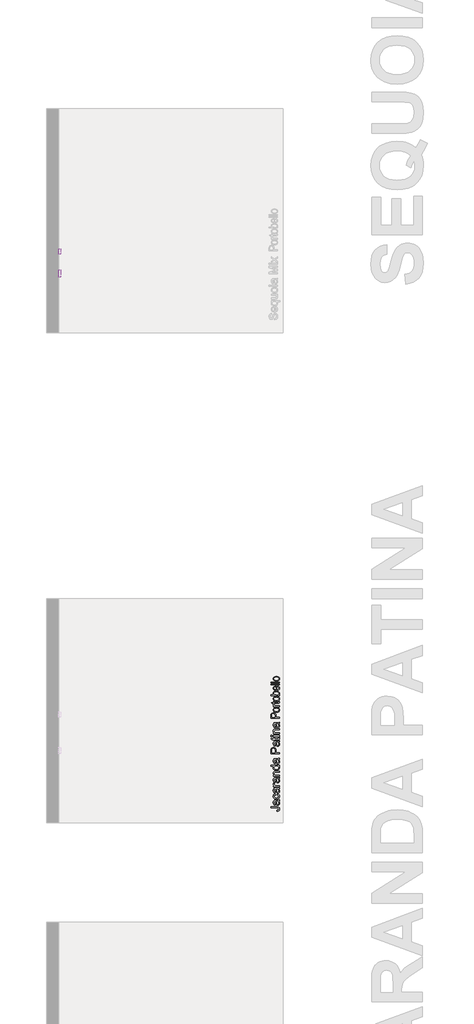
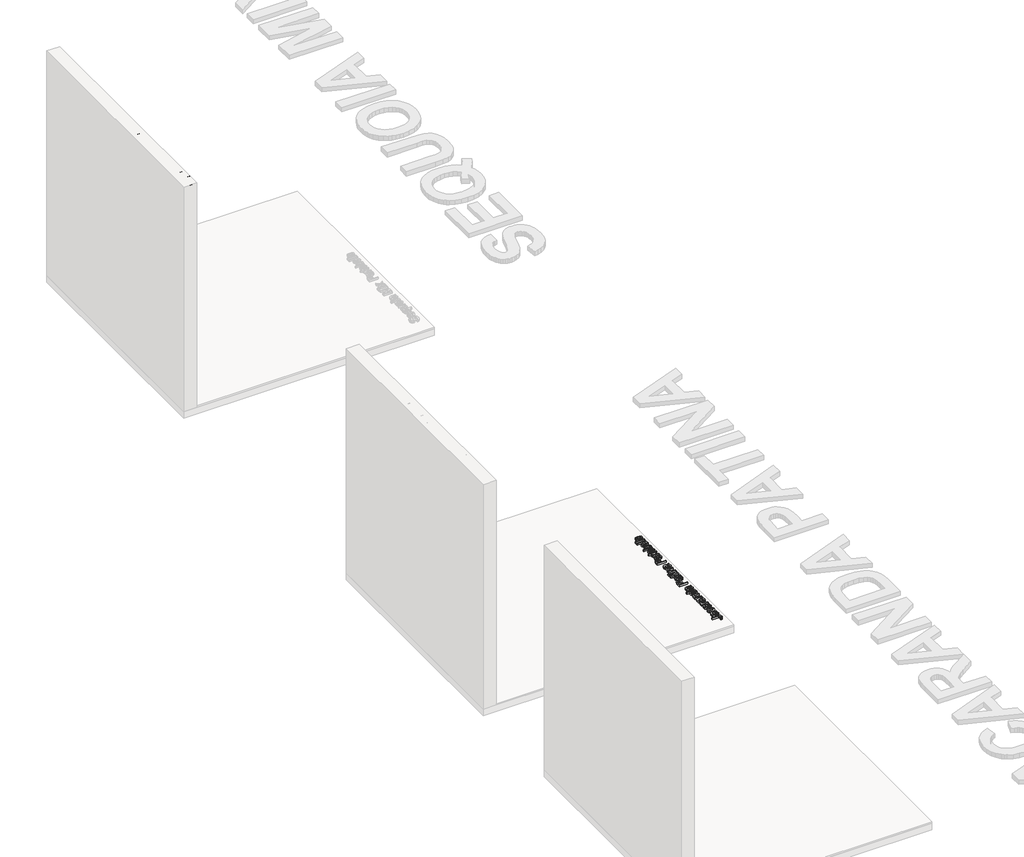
# One storey, part 8 of 10: 4 proxies.
"""IFC4 building model written with IfcOpenShell, lengths in millimetres."""

from ifc_helpers import new_model, si_unit, frame, origin, place, context, project, spatial, polyline, outline, extrude, element, save

model = new_model("IFC4")

# Units and contexts
model_context = context("Model", 3, world=origin())
ifc_project = project(units=[si_unit("LENGTHUNIT", "METRE", prefix="MILLI")], contexts=[model_context])

# Site, building, storey
site = spatial("IfcSite", under=ifc_project)
building = spatial("IfcBuilding", under=site)
storey = spatial("IfcBuildingStorey", under=building, Name="PORTOBELLO - SHOWROOM", Elevation=0.0)

# Proxies
placement = place(None, origin())
element("IfcBuildingElementProxy", 1, Name="10mm Arial", ObjectType="10mm Arial", at=placement, inside=storey, context=model_context, shape_type="SweptSolid", body=[
    extrude(outline(polyline([(10490.6401554, 2603.1041032), (10503.1971942, 2603.1041032), (10507.2438962, 2590.5348017), (10517.1276591, 2582.5885506), (10532.1862954, 2579.5596555), (10545.3074199, 2581.8527866), (10553.7809686, 2588.1558315), (10556.564609, 2596.5803292), (10554.4799443, 2604.4162157), (10545.9450821, 2610.1183866), (10527.6613469, 2614.9131153), (10507.9796602, 2621.1057955), (10497.2988196, 2630.4499982), (10493.7794151, 2642.9334606), (10498.1326854, 2657.1459683), (10510.8491397, 2667.1768841), (10529.4639687, 2670.5981866), (10549.3295964, 2667.0174685), (10562.5733482, 2656.4960435), (10567.5520179, 2640.7752195), (10554.9949791, 2640.7752195), (10552.6895853, 2648.2677495), (10547.8825939, 2653.6756148), (10529.954478, 2658.0411478), (10511.9773112, 2653.7246658), (10506.3364539, 2643.3013426), (10510.3341049, 2634.594802), (10530.8373948, 2627.5805186), (10553.0574673, 2621.2774738), (10565.2098359, 2611.0994053), (10569.1216478, 2596.8991602), (10564.6212247, 2581.8773121), (10551.6717784, 2570.9144287), (10532.6768048, 2567.0026168), (10510.2482658, 2571.220997), (10496.0602835, 2583.9251885), (10490.6401554, 2603.1041032)])), frame((151543.1527225, 0.0, 0.0), z_axis=(1.0, 0.0, 0.0), x_axis=(0.0, 1.0, 0.0)), (0.0, 0.0, 1.0), 20.0),
    extrude(outline(polyline([(10638.0382082, 2590.5470645), (10650.3499923, 2588.9774346), (10645.9139486, 2579.700677), (10638.8352858, 2572.7661014), (10629.2734196, 2568.4434879), (10617.3877655, 2567.0026168), (10602.6540916, 2569.4888859), (10591.3171948, 2576.9476934), (10584.0883136, 2588.8946612), (10581.6786865, 2604.8454113), (10584.1128391, 2621.3326561), (10591.4152967, 2633.6628343), (10602.5989093, 2641.351568), (10616.676527, 2643.9144792), (10630.315752, 2641.3576994), (10641.2142561, 2633.6873598), (10648.3603638, 2621.381707), (10650.7423998, 2604.9189877), (10650.6688234, 2601.5344734), (10594.2357253, 2601.5344734), (10596.4092947, 2592.1350884), (10601.4584751, 2585.2250383), (10608.7456043, 2580.9760012), (10617.6330202, 2579.5596555), (10629.9448043, 2582.1838804), (10638.0382082, 2590.5470645)]), holes=[polyline([(10594.2357253, 2614.0915122), (10638.185361, 2614.0915122), (10633.1576404, 2625.4713285), (10625.8367887, 2629.8859125), (10616.6274761, 2631.3574405), (10601.1641695, 2626.6608137), (10596.2989301, 2621.1701749), (10594.2357253, 2614.0915122)])]), frame((151543.1527225, 0.0, 0.0), z_axis=(1.0, 0.0, 0.0), x_axis=(0.0, 1.0, 0.0)), (0.0, 0.0, 1.0), 20.0),
    extrude(outline(polyline([(10708.8187041, 2540.3189094), (10708.8187041, 2578.6276878), (10700.8479275, 2570.3135547), (10689.9586204, 2567.0026168), (10678.0208497, 2569.6176446), (10667.8611753, 2577.4627282), (10660.9082056, 2589.8634171), (10658.590549, 2606.1452611), (10662.2693689, 2626.0354143), (10672.9379468, 2639.377268), (10688.2663633, 2643.9144792), (10699.9404852, 2640.3950748), (10708.8187041, 2629.8368615), (10708.8187041, 2642.3448494), (10721.3757428, 2642.3448494), (10721.3757428, 2540.3189094), (10708.8187041, 2540.3189094)]), holes=[polyline([(10671.1475877, 2605.458548), (10672.5608677, 2594.1277825), (10676.8007077, 2586.0343787), (10683.0148478, 2581.1783363), (10690.3510279, 2579.5596555), (10697.3806397, 2581.0986286), (10703.3617878, 2585.7155476), (10707.454475, 2593.4778577), (10708.8187041, 2604.4530039), (10707.3808986, 2616.1853738), (10703.0674822, 2624.6006745), (10696.816554, 2629.668249), (10689.566213, 2631.3574405), (10682.4507621, 2629.7847449), (10676.5064021, 2625.0666583), (10672.4872913, 2617.0192397), (10671.1475877, 2605.458548)])]), frame((151543.1527225, 0.0, 0.0), z_axis=(1.0, 0.0, 0.0), x_axis=(0.0, 1.0, 0.0)), (0.0, 0.0, 1.0), 20.0),
    extrude(outline(polyline([(10787.3001964, 2568.5722466), (10787.3001964, 2581.2519127), (10777.4654844, 2570.5649408), (10764.6386655, 2567.0026168), (10752.8296534, 2569.5042143), (10744.6871986, 2575.7827337), (10740.947065, 2585.0288345), (10740.211301, 2596.7029565), (10740.211301, 2642.3448494), (10752.7683397, 2642.3448494), (10752.7683397, 2602.6135939), (10753.5286292, 2589.8113005), (10758.4950361, 2582.294245), (10767.8515015, 2579.5596555), (10778.3361384, 2582.3555587), (10785.2645827, 2589.970716), (10787.3001964, 2603.9624946), (10787.3001964, 2642.3448494), (10799.8572351, 2642.3448494), (10799.8572351, 2568.5722466), (10787.3001964, 2568.5722466)])), frame((151543.1527225, 0.0, 0.0), z_axis=(1.0, 0.0, 0.0), x_axis=(0.0, 1.0, 0.0)), (0.0, 0.0, 1.0), 20.0),
    extrude(outline(polyline([(10813.9839037, 2605.458548), (10816.7000991, 2623.2456425), (10824.8486853, 2635.7474989), (10834.9163893, 2641.8727342), (10846.970656, 2643.9144792), (10860.1622912, 2641.4282101), (10870.6990447, 2633.9694026), (10877.6060291, 2622.1266681), (10879.9083573, 2606.4886176), (10875.8371299, 2584.1459177), (10863.9790669, 2571.5030398), (10846.970656, 2567.0026168), (10833.6196052, 2569.4796889), (10823.0951145, 2576.9109052), (10816.2617064, 2589.0019601), (10813.9839037, 2605.458548)]), holes=[polyline([(10826.5409425, 2605.4830735), (10827.9940764, 2594.1185855), (10832.353478, 2586.0221159), (10838.9140403, 2581.1752706), (10846.970656, 2579.5596555), (10854.9904835, 2581.1844677), (10861.538783, 2586.0589041), (10865.8981846, 2594.2626726), (10867.3513185, 2605.8754809), (10865.8889876, 2616.9088751), (10861.5019948, 2624.8949801), (10854.9444982, 2629.7418254), (10846.970656, 2631.3574405), (10838.9140403, 2629.7479567), (10832.353478, 2624.9195055), (10827.9940764, 2616.8414301), (10826.5409425, 2605.4830735)])]), frame((151543.1527225, 0.0, 0.0), z_axis=(1.0, 0.0, 0.0), x_axis=(0.0, 1.0, 0.0)), (0.0, 0.0, 1.0), 20.0),
    extrude(outline(polyline([(151563.1527225, 10906.5920647), (151563.1527225, 10894.0350259), (151543.1527225, 10894.0350259), (151543.1527225, 10906.5920647), (151563.1527225, 10906.5920647)])), frame((0.0, 0.0, 2656.471518), z_axis=(0.0, 0.0, 1.0), x_axis=(1.0, 0.0, 0.0)), (0.0, 0.0, 1.0), 12.5570388),
    extrude(outline(polyline([(151563.1527225, 10906.5920647), (151563.1527225, 10894.0350259), (151543.1527225, 10894.0350259), (151543.1527225, 10906.5920647), (151563.1527225, 10906.5920647)])), frame((0.0, 0.0, 2568.5722466), z_axis=(0.0, 0.0, 1.0), x_axis=(1.0, 0.0, 0.0)), (0.0, 0.0, 1.0), 73.7726028),
    extrude(outline(polyline([(10972.5165182, 2577.9900257), (10960.3396242, 2569.4796889), (10946.8874059, 2567.0026168), (10936.393572, 2568.4925388), (10928.6527216, 2572.9623051), (10923.8794528, 2579.7497279), (10922.2883631, 2588.1926197), (10924.6918588, 2598.1254336), (10931.0071664, 2605.3359207), (10939.7995461, 2609.456199), (10950.6643277, 2611.3446599), (10972.4429418, 2615.661142), (10972.5165182, 2618.4570452), (10969.0584274, 2627.7276714), (10955.1770135, 2631.3574405), (10942.4728219, 2628.941682), (10936.4150317, 2620.3700315), (10923.857993, 2621.9396614), (10929.2903838, 2634.2023946), (10940.2287418, 2641.3883562), (10956.7956943, 2643.9144792), (10972.0137461, 2641.6826618), (10980.6099221, 2636.0785927), (10984.4604203, 2627.5559932), (10985.073557, 2616.5685843), (10985.073557, 2600.9458622), (10985.7112191, 2579.1304599), (10988.2128167, 2568.5722466), (10975.6557779, 2568.5722466), (10972.5165182, 2577.9900257)]), holes=[polyline([(10972.5165182, 2603.1041032), (10952.258483, 2599.253605), (10941.4550151, 2597.2179913), (10936.5621845, 2593.9070533), (10934.8454019, 2589.0755365), (10938.5855355, 2582.2819823), (10949.5606817, 2579.5596555), (10962.2648733, 2582.5640252), (10970.456379, 2589.8358259), (10972.4429418, 2599.5479106), (10972.5165182, 2603.1041032)])]), frame((151543.1527225, 0.0, 0.0), z_axis=(1.0, 0.0, 0.0), x_axis=(0.0, 1.0, 0.0)), (0.0, 0.0, 1.0), 20.0),
    extrude(outline(polyline([(11043.1498613, 2568.5722466), (11043.1498613, 2669.0285568), (11064.7567971, 2669.0285568), (11085.3091379, 2598.2235354), (11089.4539417, 2583.4346792), (11093.9421021, 2599.4498087), (11114.1510863, 2669.0285568), (11135.7580222, 2669.0285568), (11135.7580222, 2568.5722466), (11123.2009834, 2568.5722466), (11123.2009834, 2656.471518), (11097.9642786, 2568.5722466), (11080.9436049, 2568.5722466), (11055.7069, 2656.471518), (11055.7069, 2568.5722466), (11043.1498613, 2568.5722466)])), frame((151543.1527225, 0.0, 0.0), z_axis=(1.0, 0.0, 0.0), x_axis=(0.0, 1.0, 0.0)), (0.0, 0.0, 1.0), 20.0),
    extrude(outline(polyline([(151563.1527225, 11168.720249), (151563.1527225, 11156.1632102), (151543.1527225, 11156.1632102), (151543.1527225, 11168.720249), (151563.1527225, 11168.720249)])), frame((0.0, 0.0, 2656.471518), z_axis=(0.0, 0.0, 1.0), x_axis=(1.0, 0.0, 0.0)), (0.0, 0.0, 1.0), 12.5570388),
    extrude(outline(polyline([(151563.1527225, 11168.720249), (151563.1527225, 11156.1632102), (151543.1527225, 11156.1632102), (151543.1527225, 11168.720249), (151563.1527225, 11168.720249)])), frame((0.0, 0.0, 2568.5722466), z_axis=(0.0, 0.0, 1.0), x_axis=(1.0, 0.0, 0.0)), (0.0, 0.0, 1.0), 73.7726028),
    extrude(outline(polyline([(11179.7076579, 2568.5722466), (11206.5385181, 2605.6547517), (11181.2772877, 2642.3448494), (11196.384975, 2642.3448494), (11208.5741318, 2624.6865136), (11214.26404, 2616.3478551), (11219.1936587, 2623.1659347), (11233.0750726, 2642.3448494), (11248.1827599, 2642.3448494), (11221.6462053, 2605.6547517), (11247.2017413, 2568.5722466), (11232.094054, 2568.5722466), (11216.7165866, 2590.8658955), (11213.896158, 2594.9371229), (11194.8153452, 2568.5722466), (11179.7076579, 2568.5722466)])), frame((151543.1527225, 0.0, 0.0), z_axis=(1.0, 0.0, 0.0), x_axis=(0.0, 1.0, 0.0)), (0.0, 0.0, 1.0), 20.0),
])
element("IfcBuildingElementProxy", 2, Name="10mm Arial", ObjectType="10mm Arial", at=placement, inside=storey, context=model_context, shape_type="SweptSolid", body=[
    extrude(outline(polyline([(154173.6817014, 4610.3471122), (154172.0630207, 4622.904151), (154186.9009278, 4627.1961076), (154190.8985788, 4637.791109), (154188.6299732, 4646.387285), (154182.4495557, 4651.3659546), (154170.0028815, 4652.727118), (154101.4296776, 4652.727118), (154101.4296776, 4665.2841568), (154169.7821523, 4665.2841568), (154189.2921608, 4662.2552617), (154199.8258486, 4652.6412789), (154203.4556176, 4637.2024978), (154201.5824851, 4625.5958209), (154195.9630876, 4617.06709), (154186.6464761, 4611.8922166), (154173.6817014, 4610.3471122)])), frame((0.0, 0.0, 17.0), z_axis=(0.0, 0.0, 1.0), x_axis=(1.0, 0.0, 0.0)), (0.0, 0.0, 1.0), 20.0),
    extrude(outline(polyline([(154192.4682087, 4732.7782402), (154200.9785455, 4720.6013461), (154203.4556176, 4707.1491279), (154201.9656955, 4696.6552939), (154197.4959293, 4688.9144436), (154190.7085064, 4684.1411747), (154182.2656147, 4682.5500851), (154172.3328008, 4684.9535808), (154165.1223137, 4691.2688884), (154161.0020353, 4700.0612681), (154159.1135744, 4710.9260497), (154154.7970923, 4732.7046638), (154152.0011892, 4732.7782402), (154142.7305629, 4729.3201494), (154139.1007939, 4715.4387355), (154141.5165523, 4702.7345439), (154150.0882028, 4696.6767537), (154148.518573, 4684.119715), (154136.2558398, 4689.5521057), (154129.0698782, 4700.4904637), (154126.5437551, 4717.0574163), (154128.7755726, 4732.2754681), (154134.3796416, 4740.8716441), (154142.9022412, 4744.7221423), (154153.8896501, 4745.335279), (154169.5123722, 4745.335279), (154191.3277745, 4745.9729411), (154201.8859877, 4748.4745386), (154201.8859877, 4735.9174999), (154192.4682087, 4732.7782402)]), holes=[polyline([(154167.3541311, 4732.7782402), (154171.2046293, 4712.520205), (154173.240243, 4701.7167371), (154176.551181, 4696.8239065), (154181.3826979, 4695.1071239), (154188.176252, 4698.8472575), (154190.8985788, 4709.8224037), (154187.8942092, 4722.5265953), (154180.6224084, 4730.718101), (154170.9103237, 4732.7046638), (154167.3541311, 4732.7782402)])]), frame((0.0, 0.0, 17.0), z_axis=(0.0, 0.0, 1.0), x_axis=(1.0, 0.0, 0.0)), (0.0, 0.0, 1.0), 20.0),
    extrude(outline(polyline([(154175.2022803, 4809.6901026), (154176.7719102, 4822.2471414), (154187.9401944, 4818.7461311), (154196.3800205, 4812.1671747), (154201.6867183, 4803.1295404), (154203.4556176, 4792.2524961), (154200.9877425, 4778.895314), (154193.5841174, 4768.450531), (154181.5697045, 4761.7090934), (154165.2694665, 4759.4619476), (154144.4105574, 4763.300183), (154131.00739, 4774.9988305), (154126.5437551, 4792.0808178), (154128.0765968, 4802.6911477), (154132.6751217, 4811.1738934), (154140.0940753, 4817.2592747), (154150.0882028, 4820.6775116), (154151.6578327, 4808.1204728), (154142.2523163, 4802.2956745), (154139.1007939, 4792.1789197), (154140.6520296, 4784.064056), (154145.3057369, 4777.6230554), (154153.3133016, 4773.4200036), (154164.9261099, 4772.0189863), (154176.6952681, 4773.3893468), (154184.730424, 4777.5004281), (154189.3565401, 4783.8249327), (154190.8985788, 4791.8355631), (154187.0480806, 4803.6691007), (154175.2022803, 4809.6901026)])), frame((0.0, 0.0, 17.0), z_axis=(0.0, 0.0, 1.0), x_axis=(1.0, 0.0, 0.0)), (0.0, 0.0, 1.0), 20.0),
    extrude(outline(polyline([(154192.4682087, 4880.3234457), (154200.9785455, 4868.1465517), (154203.4556176, 4854.6943334), (154201.9656955, 4844.2004995), (154197.4959293, 4836.4596492), (154190.7085064, 4831.6863803), (154182.2656147, 4830.0952906), (154172.3328008, 4832.4987863), (154165.1223137, 4838.8140939), (154161.0020353, 4847.6064736), (154159.1135744, 4858.4712552), (154154.7970923, 4880.2498693), (154152.0011892, 4880.3234457), (154142.7305629, 4876.865355), (154139.1007939, 4862.983941), (154141.5165523, 4850.2797494), (154150.0882028, 4844.2219593), (154148.518573, 4831.6649205), (154136.2558398, 4837.0973113), (154129.0698782, 4848.0356693), (154126.5437551, 4864.6026218), (154128.7755726, 4879.8206737), (154134.3796416, 4888.4168496), (154142.9022412, 4892.2673478), (154153.8896501, 4892.8804845), (154169.5123722, 4892.8804845), (154191.3277745, 4893.5181466), (154201.8859877, 4896.0197442), (154201.8859877, 4883.4627054), (154192.4682087, 4880.3234457)]), holes=[polyline([(154167.3541311, 4880.3234457), (154171.2046293, 4860.0654105), (154173.240243, 4849.2619426), (154176.551181, 4844.3691121), (154181.3826979, 4842.6523294), (154188.176252, 4846.392463), (154190.8985788, 4857.3676092), (154187.8942092, 4870.0718008), (154180.6224084, 4878.2633065), (154170.9103237, 4880.2498693), (154167.3541311, 4880.3234457)])]), frame((0.0, 0.0, 17.0), z_axis=(0.0, 0.0, 1.0), x_axis=(1.0, 0.0, 0.0)), (0.0, 0.0, 1.0), 20.0),
    extrude(outline(polyline([(154201.8859877, 4910.1464128), (154128.113385, 4910.1464128), (154128.113385, 4921.1338217), (154139.0272175, 4921.1338217), (154128.9717763, 4928.93292), (154126.5437551, 4936.7810692), (154130.4187788, 4949.3871589), (154141.6759679, 4945.1933042), (154139.1007939, 4936.3641363), (154141.577866, 4929.2640138), (154148.4449966, 4924.7390653), (154163.1112254, 4922.7034516), (154201.8859877, 4922.7034516), (154201.8859877, 4910.1464128)])), frame((0.0, 0.0, 17.0), z_axis=(0.0, 0.0, 1.0), x_axis=(1.0, 0.0, 0.0)), (0.0, 0.0, 1.0), 20.0),
    extrude(outline(polyline([(154192.4682087, 5004.3242036), (154200.9785455, 4992.1473095), (154203.4556176, 4978.6950912), (154201.9656955, 4968.2012573), (154197.4959293, 4960.460407), (154190.7085064, 4955.6871381), (154182.2656147, 4954.0960485), (154172.3328008, 4956.4995442), (154165.1223137, 4962.8148518), (154161.0020353, 4971.6072315), (154159.1135744, 4982.472013), (154154.7970923, 5004.2506272), (154152.0011892, 5004.3242036), (154142.7305629, 5000.8661128), (154139.1007939, 4986.9846988), (154141.5165523, 4974.2805073), (154150.0882028, 4968.2227171), (154148.518573, 4955.6656783), (154136.2558398, 4961.0980691), (154129.0698782, 4972.0364271), (154126.5437551, 4988.6033796), (154128.7755726, 5003.8214315), (154134.3796416, 5012.4176074), (154142.9022412, 5016.2681057), (154153.8896501, 5016.8812423), (154169.5123722, 5016.8812423), (154191.3277745, 5017.5189044), (154201.8859877, 5020.020502), (154201.8859877, 5007.4634632), (154192.4682087, 5004.3242036)]), holes=[polyline([(154167.3541311, 5004.3242036), (154171.2046293, 4984.0661684), (154173.240243, 4973.2627004), (154176.551181, 4968.3698699), (154181.3826979, 4966.6530872), (154188.176252, 4970.3932209), (154190.8985788, 4981.3683671), (154187.8942092, 4994.0725586), (154180.6224084, 5002.2640644), (154170.9103237, 5004.2506272), (154167.3541311, 5004.3242036)])]), frame((0.0, 0.0, 17.0), z_axis=(0.0, 0.0, 1.0), x_axis=(1.0, 0.0, 0.0)), (0.0, 0.0, 1.0), 20.0),
    extrude(outline(polyline([(154201.8859877, 5034.1471706), (154128.113385, 5034.1471706), (154128.113385, 5046.7042094), (154138.4140808, 5046.7042094), (154129.5113365, 5056.3059295), (154126.5437551, 5069.4147912), (154128.9349881, 5081.2728542), (154135.2135075, 5089.3662581), (154144.4473456, 5093.1309172), (154156.5874514, 5093.7931048), (154201.8859877, 5093.7931048), (154201.8859877, 5081.236066), (154158.2797086, 5081.236066), (154147.1696723, 5079.7890635), (154141.2958231, 5074.6755038), (154139.1007939, 5066.0548023), (154144.0304126, 5052.4309058), (154151.1734547, 5048.1358835), (154162.7433434, 5046.7042094), (154201.8859877, 5046.7042094), (154201.8859877, 5034.1471706)])), frame((0.0, 0.0, 17.0), z_axis=(0.0, 0.0, 1.0), x_axis=(1.0, 0.0, 0.0)), (0.0, 0.0, 1.0), 20.0),
    extrude(outline(polyline([(154201.8859877, 5156.5782986), (154190.0401875, 5156.5782986), (154200.1017601, 5148.2702969), (154203.4556176, 5136.7862473), (154198.5995752, 5121.2371016), (154185.0492551, 5110.2496927), (154165.0732627, 5106.3501436), (154145.0850077, 5109.9431244), (154131.3262211, 5120.7098041), (154126.5437551, 5136.7371964), (154129.9650577, 5148.3132165), (154138.8555392, 5156.5782986), (154101.4296776, 5156.5782986), (154101.4296776, 5169.1353374), (154201.8859877, 5169.1353374), (154201.8859877, 5156.5782986)]), holes=[polyline([(154165.0242118, 5118.9071823), (154176.3825684, 5120.323528), (154184.4606439, 5124.572565), (154189.2890951, 5130.7468512), (154190.8985788, 5137.9389442), (154189.3626715, 5145.1279715), (154184.7549495, 5151.1459078), (154176.9895737, 5155.2202009), (154165.980705, 5156.5782986), (154153.9448324, 5155.1956755), (154145.6000425, 5151.047806), (154140.725606, 5144.8765855), (154139.1007939, 5137.4239094), (154140.6612267, 5130.15824), (154145.3425251, 5124.2046831), (154153.3838124, 5120.2315575), (154165.0242118, 5118.9071823)])]), frame((0.0, 0.0, 17.0), z_axis=(0.0, 0.0, 1.0), x_axis=(1.0, 0.0, 0.0)), (0.0, 0.0, 1.0), 20.0),
    extrude(outline(polyline([(154192.4682087, 5235.0597909), (154200.9785455, 5222.8828969), (154203.4556176, 5209.4306786), (154201.9656955, 5198.9368447), (154197.4959293, 5191.1959944), (154190.7085064, 5186.4227255), (154182.2656147, 5184.8316359), (154172.3328008, 5187.2351316), (154165.1223137, 5193.5504391), (154161.0020353, 5202.3428188), (154159.1135744, 5213.2076004), (154154.7970923, 5234.9862145), (154152.0011892, 5235.0597909), (154142.7305629, 5231.6017002), (154139.1007939, 5217.7202862), (154141.5165523, 5205.0160947), (154150.0882028, 5198.9583045), (154148.518573, 5186.4012657), (154136.2558398, 5191.8336565), (154129.0698782, 5202.7720145), (154126.5437551, 5219.338967), (154128.7755726, 5234.5570189), (154134.3796416, 5243.1531948), (154142.9022412, 5247.003693), (154153.8896501, 5247.6168297), (154169.5123722, 5247.6168297), (154191.3277745, 5248.2544918), (154201.8859877, 5250.7560894), (154201.8859877, 5238.1990506), (154192.4682087, 5235.0597909)]), holes=[polyline([(154167.3541311, 5235.0597909), (154171.2046293, 5214.8017557), (154173.240243, 5203.9982878), (154176.551181, 5199.1054573), (154181.3826979, 5197.3886746), (154188.176252, 5201.1288082), (154190.8985788, 5212.1039544), (154187.8942092, 5224.808146), (154180.6224084, 5232.9996518), (154170.9103237, 5234.9862145), (154167.3541311, 5235.0597909)])]), frame((0.0, 0.0, 17.0), z_axis=(0.0, 0.0, 1.0), x_axis=(1.0, 0.0, 0.0)), (0.0, 0.0, 1.0), 20.0),
    extrude(outline(polyline([(154201.8859877, 5305.693134), (154101.4296776, 5305.693134), (154101.4296776, 5342.9227919), (154102.3861708, 5357.9323773), (154107.0827976, 5370.1337968), (154116.7948822, 5378.0432597), (154130.4923552, 5381.0353666), (154142.3320241, 5379.0150813), (154152.1973929, 5372.9542255), (154158.856057, 5361.6203943), (154161.0756117, 5343.7811832), (154161.0756117, 5318.2501728), (154201.8859877, 5318.2501728), (154201.8859877, 5305.693134)]), holes=[polyline([(154148.518573, 5318.2501728), (154148.518573, 5344.5169472), (154143.9077853, 5363.0091489), (154138.3588985, 5367.1110331), (154130.9338136, 5368.4783278), (154120.5350159, 5365.253229), (154114.8451077, 5356.7796804), (154113.9867164, 5344.2226416), (154113.9867164, 5318.2501728), (154148.518573, 5318.2501728)])]), frame((0.0, 0.0, 17.0), z_axis=(0.0, 0.0, 1.0), x_axis=(1.0, 0.0, 0.0)), (0.0, 0.0, 1.0), 20.0),
    extrude(outline(polyline([(154192.4682087, 5443.8205605), (154200.9785455, 5431.6436664), (154203.4556176, 5418.1914481), (154201.9656955, 5407.6976142), (154197.4959293, 5399.9567639), (154190.7085064, 5395.183495), (154182.2656147, 5393.5924054), (154172.3328008, 5395.9959011), (154165.1223137, 5402.3112087), (154161.0020353, 5411.1035884), (154159.1135744, 5421.9683699), (154154.7970923, 5443.7469841), (154152.0011892, 5443.8205605), (154142.7305629, 5440.3624697), (154139.1007939, 5426.4810558), (154141.5165523, 5413.7768642), (154150.0882028, 5407.719074), (154148.518573, 5395.1620352), (154136.2558398, 5400.594426), (154129.0698782, 5411.532784), (154126.5437551, 5428.0997365), (154128.7755726, 5443.3177884), (154134.3796416, 5451.9139644), (154142.9022412, 5455.7644626), (154153.8896501, 5456.3775992), (154169.5123722, 5456.3775992), (154191.3277745, 5457.0152614), (154201.8859877, 5459.5168589), (154201.8859877, 5446.9598202), (154192.4682087, 5443.8205605)]), holes=[polyline([(154167.3541311, 5443.8205605), (154171.2046293, 5423.5625253), (154173.240243, 5412.7590573), (154176.551181, 5407.8662268), (154181.3826979, 5406.1494442), (154188.176252, 5409.8895778), (154190.8985788, 5420.864724), (154187.8942092, 5433.5689155), (154180.6224084, 5441.7604213), (154170.9103237, 5443.7469841), (154167.3541311, 5443.8205605)])]), frame((0.0, 0.0, 17.0), z_axis=(0.0, 0.0, 1.0), x_axis=(1.0, 0.0, 0.0)), (0.0, 0.0, 1.0), 20.0),
    extrude(outline(polyline([(154191.4136136, 5500.3272349), (154202.2538697, 5501.8968648), (154203.4556176, 5492.5036112), (154201.3709529, 5481.9821861), (154195.9017739, 5476.7337363), (154181.652478, 5475.2131574), (154140.6704237, 5475.2131574), (154140.6704237, 5465.7953783), (154128.113385, 5465.7953783), (154128.113385, 5475.2131574), (154110.1852691, 5475.2131574), (154102.8031037, 5487.7701962), (154128.113385, 5487.7701962), (154128.113385, 5500.3272349), (154140.6704237, 5500.3272349), (154140.6704237, 5487.7701962), (154181.284596, 5487.7701962), (154187.7593191, 5488.4323837), (154190.0524502, 5490.578362), (154190.8985788, 5494.8580559), (154191.4136136, 5500.3272349)])), frame((0.0, 0.0, 17.0), z_axis=(0.0, 0.0, 1.0), x_axis=(1.0, 0.0, 0.0)), (0.0, 0.0, 1.0), 20.0),
    extrude(outline(polyline([(154113.9867164, 5512.8842737), (154101.4296776, 5512.8842737), (154101.4296776, 5525.4413125), (154113.9867164, 5525.4413125), (154113.9867164, 5512.8842737)])), frame((0.0, 0.0, 17.0), z_axis=(0.0, 0.0, 1.0), x_axis=(1.0, 0.0, 0.0)), (0.0, 0.0, 1.0), 20.0),
    extrude(outline(polyline([(154201.8859877, 5512.8842737), (154128.113385, 5512.8842737), (154128.113385, 5525.4413125), (154201.8859877, 5525.4413125), (154201.8859877, 5512.8842737)])), frame((0.0, 0.0, 17.0), z_axis=(0.0, 0.0, 1.0), x_axis=(1.0, 0.0, 0.0)), (0.0, 0.0, 1.0), 20.0),
    extrude(outline(polyline([(154201.8859877, 5544.2768706), (154128.113385, 5544.2768706), (154128.113385, 5556.8339094), (154138.4140808, 5556.8339094), (154129.5113365, 5566.4356295), (154126.5437551, 5579.5444912), (154128.9349881, 5591.4025542), (154135.2135075, 5599.4959581), (154144.4473456, 5603.2606172), (154156.5874514, 5603.9228048), (154201.8859877, 5603.9228048), (154201.8859877, 5591.365766), (154158.2797086, 5591.365766), (154147.1696723, 5589.9187635), (154141.2958231, 5584.8052037), (154139.1007939, 5576.1845023), (154144.0304126, 5562.5606058), (154151.1734547, 5558.2655835), (154162.7433434, 5556.8339094), (154201.8859877, 5556.8339094), (154201.8859877, 5544.2768706)])), frame((0.0, 0.0, 17.0), z_axis=(0.0, 0.0, 1.0), x_axis=(1.0, 0.0, 0.0)), (0.0, 0.0, 1.0), 20.0),
    extrude(outline(polyline([(154192.4682087, 5668.2776285), (154200.9785455, 5656.1007344), (154203.4556176, 5642.6485161), (154201.9656955, 5632.1546822), (154197.4959293, 5624.4138319), (154190.7085064, 5619.640563), (154182.2656147, 5618.0494734), (154172.3328008, 5620.4529691), (154165.1223137, 5626.7682767), (154161.0020353, 5635.5606563), (154159.1135744, 5646.4254379), (154154.7970923, 5668.2040521), (154152.0011892, 5668.2776285), (154142.7305629, 5664.8195377), (154139.1007939, 5650.9381237), (154141.5165523, 5638.2339322), (154150.0882028, 5632.176142), (154148.518573, 5619.6191032), (154136.2558398, 5625.051494), (154129.0698782, 5635.989852), (154126.5437551, 5652.5568045), (154128.7755726, 5667.7748564), (154134.3796416, 5676.3710323), (154142.9022412, 5680.2215306), (154153.8896501, 5680.8346672), (154169.5123722, 5680.8346672), (154191.3277745, 5681.4723293), (154201.8859877, 5683.9739269), (154201.8859877, 5671.4168881), (154192.4682087, 5668.2776285)]), holes=[polyline([(154167.3541311, 5668.2776285), (154171.2046293, 5648.0195932), (154173.240243, 5637.2161253), (154176.551181, 5632.3232948), (154181.3826979, 5630.6065121), (154188.176252, 5634.3466458), (154190.8985788, 5645.321792), (154187.8942092, 5658.0259835), (154180.6224084, 5666.2174893), (154170.9103237, 5668.2040521), (154167.3541311, 5668.2776285)])]), frame((0.0, 0.0, 17.0), z_axis=(0.0, 0.0, 1.0), x_axis=(1.0, 0.0, 0.0)), (0.0, 0.0, 1.0), 20.0),
])
element("IfcBuildingElementProxy", 3, Name="10mm Arial Narrow", ObjectType="10mm Arial Narrow", at=placement, inside=storey, context=model_context, shape_type="SweptSolid", body=[
    extrude(outline(polyline([(11322.6629446, 2568.5722466), (11322.6629446, 2669.2908504), (11353.9598293, 2669.2908504), (11370.2555308, 2667.4125296), (11381.7285169, 2657.9320865), (11386.0181954, 2640.9129776), (11384.231887, 2628.8371521), (11378.8729618, 2619.2107583), (11369.1291729, 2612.9094999), (11354.1882737, 2610.8090804), (11332.4099063, 2610.8090804), (11332.4099063, 2568.5722466), (11322.6629446, 2568.5722466)]), holes=[polyline([(11332.4099063, 2622.1805357), (11355.3812612, 2622.1805357), (11371.2454566, 2626.7113499), (11376.2712337, 2640.3799407), (11373.7964192, 2650.5457171), (11367.8187904, 2656.3456669), (11355.1528168, 2657.9193951), (11332.4099063, 2657.9193951), (11332.4099063, 2622.1805357)])]), frame((151543.1527225, 0.0, 0.0), z_axis=(1.0, 0.0, 0.0), x_axis=(0.0, 1.0, 0.0)), (0.0, 0.0, 1.0), 20.0),
    extrude(outline(polyline([(11394.1406634, 2605.1233528), (11396.0951323, 2621.7141284), (11401.9585389, 2633.6662132), (11410.8171056, 2640.8907678), (11421.7570548, 2643.2989526), (11432.5700903, 2640.8907678), (11441.4540398, 2633.6662132), (11447.3935945, 2621.9044987), (11449.3734461, 2605.8848342), (11447.4284958, 2588.7229476), (11441.5936447, 2576.5804925), (11432.7445965, 2569.3559379), (11421.7570548, 2566.947753), (11410.8964266, 2569.3622835), (11402.0219957, 2576.6058752), (11396.1109965, 2588.5643057), (11394.1406634, 2605.1233528)]), holes=[polyline([(11403.8876251, 2605.1487355), (11405.1916619, 2592.5969841), (11409.1037725, 2583.7257261), (11414.9449693, 2578.4524675), (11422.0362646, 2576.6947147), (11428.7563378, 2578.4683317), (11434.4484111, 2583.7891828), (11438.3319661, 2592.6763051), (11439.6264845, 2605.1487355), (11438.3224476, 2617.6624129), (11434.410337, 2626.5209796), (11428.5691403, 2631.7942381), (11421.4778449, 2633.551991), (11414.7101792, 2631.7847196), (11409.0276244, 2626.4829055), (11405.1726249, 2617.6148203), (11403.8876251, 2605.1487355)])]), frame((151543.1527225, 0.0, 0.0), z_axis=(1.0, 0.0, 0.0), x_axis=(0.0, 1.0, 0.0)), (0.0, 0.0, 1.0), 20.0),
    extrude(outline(polyline([(11520.8511649, 2576.6947147), (11522.4756585, 2566.947753), (11515.1146718, 2566.947753), (11506.8399075, 2569.0672095), (11502.5248464, 2574.8671593), (11501.3572416, 2589.5129845), (11501.3572416, 2631.9274974), (11493.2347736, 2631.9274974), (11493.2347736, 2635.1764846), (11491.6102799, 2630.3030038), (11484.0462316, 2631.9274974), (11477.9670719, 2629.6049792), (11474.0962082, 2623.1196961), (11472.1163566, 2607.7123895), (11472.1163566, 2568.5722466), (11462.369395, 2568.5722466), (11462.369395, 2641.674459), (11472.1163566, 2641.674459), (11472.1163566, 2631.9782628), (11478.3605039, 2641.0652739), (11484.7569475, 2643.2989526), (11493.2347736, 2641.674459), (11501.3572416, 2641.674459), (11501.3572416, 2657.9193951), (11511.1042032, 2666.0418631), (11511.1042032, 2641.674459), (11520.8511649, 2641.674459), (11520.8511649, 2631.9274974), (11511.1042032, 2631.9274974), (11511.1042032, 2587.2793058), (11511.9672155, 2579.2837513), (11516.5868692, 2576.6947147), (11520.8511649, 2576.6947147)])), frame((151543.1527225, 0.0, 0.0), z_axis=(1.0, 0.0, 0.0), x_axis=(0.0, 1.0, 0.0)), (0.0, 0.0, 1.0), 20.0),
    extrude(outline(polyline([(11527.3491393, 2605.1233528), (11529.3036082, 2621.7141284), (11535.1670148, 2633.6662132), (11544.0255815, 2640.8907678), (11554.9655307, 2643.2989526), (11565.7785663, 2640.8907678), (11574.6625157, 2633.6662132), (11580.6020705, 2621.9044987), (11582.581922, 2605.8848342), (11580.6369717, 2588.7229476), (11574.8021206, 2576.5804925), (11565.9530724, 2569.3559379), (11554.9655307, 2566.947753), (11544.1049025, 2569.3622835), (11535.2304716, 2576.6058752), (11529.3194724, 2588.5643057), (11527.3491393, 2605.1233528)]), holes=[polyline([(11537.096101, 2605.1487355), (11538.4001379, 2592.5969841), (11542.3122484, 2583.7257261), (11548.1534452, 2578.4524675), (11555.2447405, 2576.6947147), (11561.9648137, 2578.4683317), (11567.656887, 2583.7891828), (11571.540442, 2592.6763051), (11572.8349604, 2605.1487355), (11571.5309235, 2617.6624129), (11567.6188129, 2626.5209796), (11561.7776162, 2631.7942381), (11554.6863209, 2633.551991), (11547.9186551, 2631.7847196), (11542.2361003, 2626.4829055), (11538.3811008, 2617.6148203), (11537.096101, 2605.1487355)])]), frame((151543.1527225, 0.0, 0.0), z_axis=(1.0, 0.0, 0.0), x_axis=(0.0, 1.0, 0.0)), (0.0, 0.0, 1.0), 20.0),
    extrude(outline(polyline([(11605.3248326, 2568.5722466), (11595.5778709, 2568.5722466), (11595.5778709, 2669.2908504), (11605.3248326, 2669.2908504), (11605.3248326, 2633.8819662), (11612.7238933, 2640.9637431), (11621.9251266, 2643.2989526), (11634.8068533, 2639.0981137), (11644.0842348, 2626.3686833), (11647.5616664, 2605.6817725), (11645.6294074, 2589.227429), (11639.8326304, 2577.0246899), (11631.4595081, 2569.4669872), (11621.7982131, 2566.947753), (11612.4573748, 2569.5621724), (11605.3248326, 2577.3292825), (11605.3248326, 2568.5722466)]), holes=[polyline([(11605.3248326, 2605.6817725), (11607.406215, 2588.4342193), (11613.2950043, 2579.7025661), (11621.7474476, 2576.6947147), (11627.6901752, 2578.4841959), (11632.9285326, 2583.8526396), (11637.8147047, 2605.2756491), (11633.1062116, 2626.7113499), (11627.8615086, 2631.8418307), (11621.5443859, 2633.551991), (11615.5667571, 2631.7625097), (11610.2744615, 2626.394066), (11605.3248326, 2605.6817725)])]), frame((151543.1527225, 0.0, 0.0), z_axis=(1.0, 0.0, 0.0), x_axis=(0.0, 1.0, 0.0)), (0.0, 0.0, 1.0), 20.0),
    extrude(outline(polyline([(11699.5454619, 2591.3151571), (11709.2924235, 2589.6906635), (11705.5928932, 2579.804097), (11699.7739063, 2572.6842461), (11692.070253, 2568.3818763), (11682.7167234, 2566.947753), (11671.1231694, 2569.3622835), (11661.9790472, 2576.6058752), (11656.0394924, 2588.4120094), (11654.0596408, 2604.5141677), (11656.0490109, 2621.1810914), (11662.0171212, 2633.3616206), (11671.0311571, 2640.8146196), (11682.1583037, 2643.2989526), (11692.8412529, 2640.9002863), (11701.5887703, 2633.7042872), (11707.4236213, 2621.9647827), (11709.3685717, 2605.9355996), (11709.2924235, 2602.6866124), (11663.8066025, 2602.6866124), (11669.809614, 2583.2434545), (11675.7396503, 2578.3318996), (11682.843637, 2576.6947147), (11693.0221047, 2580.3498253), (11699.5454619, 2591.3151571)]), holes=[polyline([(11664.466553, 2612.4335741), (11699.5454619, 2612.4335741), (11695.2811662, 2626.6986586), (11689.4558336, 2631.8386579), (11682.2344519, 2633.551991), (11670.0253671, 2627.8408806), (11664.466553, 2612.4335741)])]), frame((151543.1527225, 0.0, 0.0), z_axis=(1.0, 0.0, 0.0), x_axis=(0.0, 1.0, 0.0)), (0.0, 0.0, 1.0), 20.0),
    extrude(outline(polyline([(151563.1527225, 11732.0353341), (151563.1527225, 11722.2883724), (151543.1527225, 11722.2883724), (151543.1527225, 11732.0353341), (151563.1527225, 11732.0353341)])), frame((0.0, 0.0, 2568.5722466), z_axis=(0.0, 0.0, 1.0), x_axis=(1.0, 0.0, 0.0)), (0.0, 0.0, 1.0), 100.7186038),
    extrude(outline(polyline([(151563.1527225, 11758.0272318), (151563.1527225, 11748.2802702), (151543.1527225, 11748.2802702), (151543.1527225, 11758.0272318), (151563.1527225, 11758.0272318)])), frame((0.0, 0.0, 2568.5722466), z_axis=(0.0, 0.0, 1.0), x_axis=(1.0, 0.0, 0.0)), (0.0, 0.0, 1.0), 100.7186038),
    extrude(outline(polyline([(11769.3986871, 2605.1233528), (11771.3531559, 2621.7141284), (11777.2165626, 2633.6662132), (11786.0751293, 2640.8907678), (11797.0150784, 2643.2989526), (11807.828114, 2640.8907678), (11816.7120634, 2633.6662132), (11822.6516182, 2621.9044987), (11824.6314698, 2605.8848342), (11822.6865194, 2588.7229476), (11816.8516683, 2576.5804925), (11808.0026202, 2569.3559379), (11797.0150784, 2566.947753), (11786.1544502, 2569.3622835), (11777.2800193, 2576.6058752), (11771.3690201, 2588.5643057), (11769.3986871, 2605.1233528)]), holes=[polyline([(11779.1456487, 2605.1487355), (11780.4496856, 2592.5969841), (11784.3617962, 2583.7257261), (11790.2029929, 2578.4524675), (11797.2942883, 2576.6947147), (11804.0143614, 2578.4683317), (11809.7064347, 2583.7891828), (11813.5899898, 2592.6763051), (11814.8845081, 2605.1487355), (11813.5804713, 2617.6624129), (11809.6683607, 2626.5209796), (11803.8271639, 2631.7942381), (11796.7358686, 2633.551991), (11789.9682028, 2631.7847196), (11784.285648, 2626.4829055), (11780.4306485, 2617.6148203), (11779.1456487, 2605.1487355)])]), frame((151543.1527225, 0.0, 0.0), z_axis=(1.0, 0.0, 0.0), x_axis=(0.0, 1.0, 0.0)), (0.0, 0.0, 1.0), 20.0),
])
element("IfcBuildingElementProxy", 4, Name="10mm Arial Narrow", ObjectType="10mm Arial Narrow", at=placement, inside=storey, context=model_context, shape_type="SweptSolid", body=[
    extrude(outline(polyline([(154201.8859877, 5733.9395312), (154101.167384, 5733.9395312), (154101.167384, 5765.2364159), (154103.0457047, 5781.5321174), (154112.5261479, 5793.0051035), (154129.5452567, 5797.2947819), (154141.6210822, 5795.5084735), (154151.247476, 5790.1495483), (154157.5487344, 5780.4057595), (154159.6491539, 5765.4648603), (154159.6491539, 5743.6864929), (154201.8859877, 5743.6864929), (154201.8859877, 5733.9395312)]), holes=[polyline([(154148.2776986, 5743.6864929), (154148.2776986, 5766.6578478), (154143.7468844, 5782.5220432), (154130.0782937, 5787.5478203), (154119.9125173, 5785.0730058), (154114.1125674, 5779.095377), (154112.5388392, 5766.4294034), (154112.5388392, 5743.6864929), (154148.2776986, 5743.6864929)])]), frame((0.0, 0.0, 17.0), z_axis=(0.0, 0.0, 1.0), x_axis=(1.0, 0.0, 0.0)), (0.0, 0.0, 1.0), 20.0),
    extrude(outline(polyline([(154165.3348815, 5805.41725), (154148.744106, 5807.3717189), (154136.7920212, 5813.2351255), (154129.5674666, 5822.0936922), (154127.1592817, 5833.0336413), (154129.5674666, 5843.8466769), (154136.7920212, 5852.7306264), (154148.5537356, 5858.6701811), (154164.5734002, 5860.6500327), (154181.7352867, 5858.7050823), (154193.8777419, 5852.8702313), (154201.1022965, 5844.0211831), (154203.5104813, 5833.0336413), (154201.0959508, 5822.1730132), (154193.8523592, 5813.2985823), (154181.8939287, 5807.3875831), (154165.3348815, 5805.41725)]), holes=[polyline([(154165.3094988, 5815.1642116), (154177.8612502, 5816.4682485), (154186.7325083, 5820.3803591), (154192.0057668, 5826.2215558), (154193.7635197, 5833.3128512), (154191.9899026, 5840.0329244), (154186.6690515, 5845.7249977), (154177.7819292, 5849.6085527), (154165.3094988, 5850.903071), (154152.7958215, 5849.5990342), (154143.9372548, 5845.6869236), (154138.6639962, 5839.8457268), (154136.9062434, 5832.7544315), (154138.6735147, 5825.9867657), (154143.9753288, 5820.304211), (154152.8434141, 5816.4492115), (154165.3094988, 5815.1642116)])]), frame((0.0, 0.0, 17.0), z_axis=(0.0, 0.0, 1.0), x_axis=(1.0, 0.0, 0.0)), (0.0, 0.0, 1.0), 20.0),
    extrude(outline(polyline([(154193.7635197, 5932.1277515), (154203.5104813, 5933.7522451), (154203.5104813, 5926.3912584), (154201.3910248, 5918.1164941), (154195.591075, 5913.801433), (154180.9452498, 5912.6338282), (154138.530737, 5912.6338282), (154138.530737, 5904.5113601), (154135.2817498, 5904.5113601), (154140.1552306, 5902.8868665), (154138.530737, 5895.3228182), (154140.8532552, 5889.2436585), (154147.3385383, 5885.3727948), (154162.7458448, 5883.3929432), (154201.8859877, 5883.3929432), (154201.8859877, 5873.6459816), (154128.7837753, 5873.6459816), (154128.7837753, 5883.3929432), (154138.4799716, 5883.3929432), (154129.3929604, 5889.6370905), (154127.1592817, 5896.0335341), (154128.7837753, 5904.5113601), (154128.7837753, 5912.6338282), (154112.5388392, 5912.6338282), (154104.4163712, 5922.3807898), (154128.7837753, 5922.3807898), (154128.7837753, 5932.1277515), (154138.530737, 5932.1277515), (154138.530737, 5922.3807898), (154183.1789285, 5922.3807898), (154191.174483, 5923.2438021), (154193.7635197, 5927.8634558), (154193.7635197, 5932.1277515)])), frame((0.0, 0.0, 17.0), z_axis=(0.0, 0.0, 1.0), x_axis=(1.0, 0.0, 0.0)), (0.0, 0.0, 1.0), 20.0),
    extrude(outline(polyline([(154165.3348815, 5938.6257259), (154148.744106, 5940.5801948), (154136.7920212, 5946.4436014), (154129.5674666, 5955.3021681), (154127.1592817, 5966.2421173), (154129.5674666, 5977.0551529), (154136.7920212, 5985.9391023), (154148.5537356, 5991.878657), (154164.5734002, 5993.8585086), (154181.7352867, 5991.9135583), (154193.8777419, 5986.0787072), (154201.1022965, 5977.229659), (154203.5104813, 5966.2421173), (154201.0959508, 5955.3814891), (154193.8523592, 5946.5070582), (154181.8939287, 5940.596059), (154165.3348815, 5938.6257259)]), holes=[polyline([(154165.3094988, 5948.3726876), (154177.8612502, 5949.6767244), (154186.7325083, 5953.588835), (154192.0057668, 5959.4300318), (154193.7635197, 5966.5213271), (154191.9899026, 5973.2414003), (154186.6690515, 5978.9334736), (154177.7819292, 5982.8170286), (154165.3094988, 5984.111547), (154152.7958215, 5982.8075101), (154143.9372548, 5978.8953995), (154138.6639962, 5973.0542028), (154136.9062434, 5965.9629074), (154138.6735147, 5959.1952417), (154143.9753288, 5953.5126869), (154152.8434141, 5949.6576874), (154165.3094988, 5948.3726876)])]), frame((0.0, 0.0, 17.0), z_axis=(0.0, 0.0, 1.0), x_axis=(1.0, 0.0, 0.0)), (0.0, 0.0, 1.0), 20.0),
    extrude(outline(polyline([(154201.8859877, 6016.6014192), (154201.8859877, 6006.8544575), (154101.167384, 6006.8544575), (154101.167384, 6016.6014192), (154136.5762681, 6016.6014192), (154129.4944913, 6024.0004799), (154127.1592817, 6033.2017132), (154131.3601207, 6046.0834399), (154144.0895511, 6055.3608214), (154164.7764619, 6058.838253), (154181.2308053, 6056.905994), (154193.4335444, 6051.109217), (154200.9912471, 6042.7360947), (154203.5104813, 6033.0747997), (154200.8960619, 6023.7339614), (154193.1289519, 6016.6014192), (154201.8859877, 6016.6014192)]), holes=[polyline([(154164.7764619, 6016.6014192), (154182.0240151, 6018.6828016), (154190.7556682, 6024.5715909), (154193.7635197, 6033.0240342), (154191.9740384, 6038.9667618), (154186.6055947, 6044.2051191), (154165.1825853, 6049.0912913), (154143.7468844, 6044.3827981), (154138.6164036, 6039.1380951), (154136.9062434, 6032.8209725), (154138.6957246, 6026.8433437), (154144.0641683, 6021.5510481), (154164.7764619, 6016.6014192)])]), frame((0.0, 0.0, 17.0), z_axis=(0.0, 0.0, 1.0), x_axis=(1.0, 0.0, 0.0)), (0.0, 0.0, 1.0), 20.0),
    extrude(outline(polyline([(154179.1430772, 6110.8220485), (154180.7675708, 6120.5690101), (154190.6541374, 6116.8694798), (154197.7739883, 6111.0504929), (154202.0763581, 6103.3468396), (154203.5104813, 6093.99331), (154201.0959508, 6082.399756), (154193.8523592, 6073.2556338), (154182.046225, 6067.316079), (154165.9440666, 6065.3362274), (154149.2771429, 6067.3255975), (154137.0966137, 6073.2937078), (154129.6436147, 6082.3077437), (154127.1592817, 6093.4348903), (154129.5579481, 6104.1178395), (154136.7539471, 6112.8653568), (154148.4934517, 6118.7002079), (154164.5226347, 6120.6451583), (154167.7716219, 6120.5690101), (154167.7716219, 6075.0831891), (154187.2147798, 6081.0862006), (154192.1263347, 6087.0162369), (154193.7635197, 6094.1202236), (154190.1084091, 6104.2986913), (154179.1430772, 6110.8220485)]), holes=[polyline([(154158.0246603, 6075.7431396), (154158.0246603, 6110.8220485), (154143.7595758, 6106.5577527), (154138.6195765, 6100.7324202), (154136.9062434, 6093.5110384), (154142.6173537, 6081.3019537), (154158.0246603, 6075.7431396)])]), frame((0.0, 0.0, 17.0), z_axis=(0.0, 0.0, 1.0), x_axis=(1.0, 0.0, 0.0)), (0.0, 0.0, 1.0), 20.0),
    extrude(outline(polyline([(154201.8859877, 6133.564959), (154101.167384, 6133.564959), (154101.167384, 6143.3119206), (154201.8859877, 6143.3119206), (154201.8859877, 6133.564959)])), frame((0.0, 0.0, 17.0), z_axis=(0.0, 0.0, 1.0), x_axis=(1.0, 0.0, 0.0)), (0.0, 0.0, 1.0), 20.0),
    extrude(outline(polyline([(154201.8859877, 6159.5568567), (154101.167384, 6159.5568567), (154101.167384, 6169.3038184), (154201.8859877, 6169.3038184), (154201.8859877, 6159.5568567)])), frame((0.0, 0.0, 17.0), z_axis=(0.0, 0.0, 1.0), x_axis=(1.0, 0.0, 0.0)), (0.0, 0.0, 1.0), 20.0),
    extrude(outline(polyline([(154165.3348815, 6180.6752737), (154148.744106, 6182.6297425), (154136.7920212, 6188.4931491), (154129.5674666, 6197.3517159), (154127.1592817, 6208.291665), (154129.5674666, 6219.1047006), (154136.7920212, 6227.98865), (154148.5537356, 6233.9282048), (154164.5734002, 6235.9080564), (154181.7352867, 6233.963106), (154193.8777419, 6228.1282549), (154201.1022965, 6219.2792067), (154203.5104813, 6208.291665), (154201.0959508, 6197.4310368), (154193.8523592, 6188.5566059), (154181.8939287, 6182.6456067), (154165.3348815, 6180.6752737)]), holes=[polyline([(154165.3094988, 6190.4222353), (154177.8612502, 6191.7262722), (154186.7325083, 6195.6383828), (154192.0057668, 6201.4795795), (154193.7635197, 6208.5708748), (154191.9899026, 6215.290948), (154186.6690515, 6220.9830213), (154177.7819292, 6224.8665764), (154165.3094988, 6226.1610947), (154152.7958215, 6224.8570578), (154143.9372548, 6220.9449473), (154138.6639962, 6215.1037505), (154136.9062434, 6208.0124552), (154138.6735147, 6201.2447894), (154143.9753288, 6195.5622346), (154152.8434141, 6191.7072351), (154165.3094988, 6190.4222353)])]), frame((0.0, 0.0, 17.0), z_axis=(0.0, 0.0, 1.0), x_axis=(1.0, 0.0, 0.0)), (0.0, 0.0, 1.0), 20.0),
])

save(model, "model.ifc")
